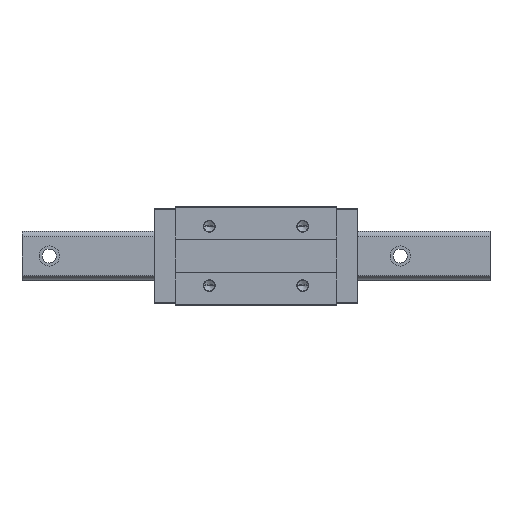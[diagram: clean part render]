
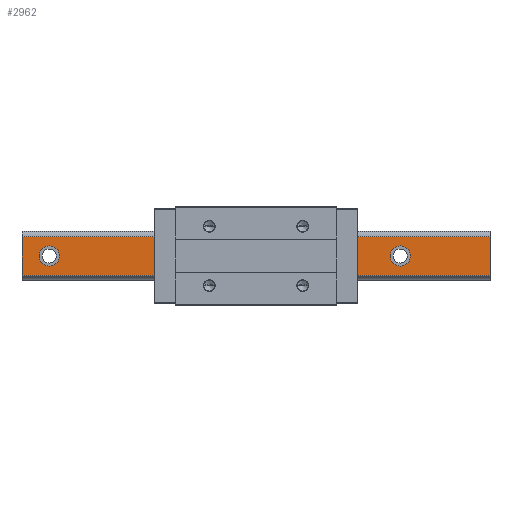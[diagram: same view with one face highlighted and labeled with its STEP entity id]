
A CAD part, top view. The second image highlights one B-rep face of the part: STEP entity #2962.
In plain terms, the highlighted planar face has unit normal (0, 0, 1).
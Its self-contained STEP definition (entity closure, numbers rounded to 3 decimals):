
#66 = EDGE_CURVE ( 'NONE', #2219, #4518, #2010, .T. ) ;
#70 = AXIS2_PLACEMENT_3D ( 'NONE', #3459, #590, #4324 ) ;
#80 = CARTESIAN_POINT ( 'NONE',  ( -128., 0., 53. ) ) ;
#125 = DIRECTION ( 'NONE',  ( 0., 0., 1. ) ) ;
#130 = CARTESIAN_POINT ( 'NONE',  ( -115., 0., 53. ) ) ;
#157 = ORIENTED_EDGE ( 'NONE', *, *, #1413, .F. ) ;
#184 = DIRECTION ( 'NONE',  ( 0., -1., 0. ) ) ;
#195 = EDGE_LOOP ( 'NONE', ( #157, #3461 ) ) ;
#211 = LINE ( 'NONE', #910, #3865 ) ;
#343 = VERTEX_POINT ( 'NONE', #3901 ) ;
#346 = FACE_BOUND ( 'NONE', #1137, .T. ) ;
#369 = EDGE_CURVE ( 'NONE', #4518, #4731, #541, .T. ) ;
#495 = EDGE_CURVE ( 'NONE', #4033, #4731, #211, .T. ) ;
#541 = LINE ( 'NONE', #1396, #1420 ) ;
#566 = DIRECTION ( 'NONE',  ( -1., 0., 0. ) ) ;
#590 = DIRECTION ( 'NONE',  ( 0., 0., 1. ) ) ;
#643 = FACE_OUTER_BOUND ( 'NONE', #4306, .T. ) ;
#668 = ORIENTED_EDGE ( 'NONE', *, *, #369, .F. ) ;
#693 = FACE_BOUND ( 'NONE', #2175, .T. ) ;
#712 = CIRCLE ( 'NONE', #3366, 13. ) ;
#894 = EDGE_CURVE ( 'NONE', #2843, #5283, #4288, .T. ) ;
#904 = VERTEX_POINT ( 'NONE', #1606 ) ;
#910 = CARTESIAN_POINT ( 'NONE',  ( -300., -24.864, 53. ) ) ;
#930 = CIRCLE ( 'NONE', #2462, 13. ) ;
#1004 = CARTESIAN_POINT ( 'NONE',  ( -278., 0., 53. ) ) ;
#1113 = EDGE_CURVE ( 'NONE', #4407, #343, #712, .T. ) ;
#1137 = EDGE_LOOP ( 'NONE', ( #4864, #3231 ) ) ;
#1151 = ORIENTED_EDGE ( 'NONE', *, *, #495, .T. ) ;
#1154 = CARTESIAN_POINT ( 'NONE',  ( 300., -24.864, 53. ) ) ;
#1193 = VECTOR ( 'NONE', #4289, 1000. ) ;
#1225 = DIRECTION ( 'NONE',  ( 0., 0., 1. ) ) ;
#1268 = ORIENTED_EDGE ( 'NONE', *, *, #2450, .F. ) ;
#1301 = DIRECTION ( 'NONE',  ( 0., 0., 1. ) ) ;
#1390 = ORIENTED_EDGE ( 'NONE', *, *, #1535, .F. ) ;
#1396 = CARTESIAN_POINT ( 'NONE',  ( 300., -24.864, 53. ) ) ;
#1413 = EDGE_CURVE ( 'NONE', #904, #3310, #3238, .T. ) ;
#1420 = VECTOR ( 'NONE', #566, 1000. ) ;
#1518 = CARTESIAN_POINT ( 'NONE',  ( 35., 0., 53. ) ) ;
#1535 = EDGE_CURVE ( 'NONE', #5283, #2843, #930, .T. ) ;
#1546 = CIRCLE ( 'NONE', #1801, 13. ) ;
#1606 = CARTESIAN_POINT ( 'NONE',  ( 48., 0., 53. ) ) ;
#1801 = AXIS2_PLACEMENT_3D ( 'NONE', #4789, #2340, #3586 ) ;
#1951 = AXIS2_PLACEMENT_3D ( 'NONE', #1518, #3157, #3993 ) ;
#1981 = CIRCLE ( 'NONE', #2581, 13. ) ;
#2010 = LINE ( 'NONE', #1154, #4562 ) ;
#2038 = CARTESIAN_POINT ( 'NONE',  ( -252., 0., 53. ) ) ;
#2096 = VERTEX_POINT ( 'NONE', #1004 ) ;
#2128 = CARTESIAN_POINT ( 'NONE',  ( 185., 0., 53. ) ) ;
#2158 = DIRECTION ( 'NONE',  ( 1., 0., 0. ) ) ;
#2175 = EDGE_LOOP ( 'NONE', ( #2522, #1268 ) ) ;
#2210 = CARTESIAN_POINT ( 'NONE',  ( 300., 24.864, 53. ) ) ;
#2219 = VERTEX_POINT ( 'NONE', #2261 ) ;
#2261 = CARTESIAN_POINT ( 'NONE',  ( 300., 24.864, 53. ) ) ;
#2307 = AXIS2_PLACEMENT_3D ( 'NONE', #4082, #2865, #3674 ) ;
#2340 = DIRECTION ( 'NONE',  ( 0., 0., 1. ) ) ;
#2378 = PLANE ( 'NONE',  #3793 ) ;
#2450 = EDGE_CURVE ( 'NONE', #2096, #3953, #1981, .T. ) ;
#2462 = AXIS2_PLACEMENT_3D ( 'NONE', #2128, #125, #2158 ) ;
#2503 = EDGE_LOOP ( 'NONE', ( #1390, #4732 ) ) ;
#2522 = ORIENTED_EDGE ( 'NONE', *, *, #3487, .F. ) ;
#2553 = DIRECTION ( 'NONE',  ( 1., 0., 0. ) ) ;
#2581 = AXIS2_PLACEMENT_3D ( 'NONE', #3341, #1225, #3695 ) ;
#2674 = FACE_BOUND ( 'NONE', #195, .T. ) ;
#2790 = DIRECTION ( 'NONE',  ( 0., -1., 0. ) ) ;
#2843 = VERTEX_POINT ( 'NONE', #5057 ) ;
#2865 = DIRECTION ( 'NONE',  ( 0., 0., 1. ) ) ;
#2959 = ORIENTED_EDGE ( 'NONE', *, *, #3257, .T. ) ;
#2962 = ADVANCED_FACE ( 'NONE', ( #693, #346, #2674, #4323, #643 ), #2378, .F. ) ;
#2984 = CIRCLE ( 'NONE', #70, 13. ) ;
#3157 = DIRECTION ( 'NONE',  ( 0., 0., 1. ) ) ;
#3231 = ORIENTED_EDGE ( 'NONE', *, *, #1113, .F. ) ;
#3238 = CIRCLE ( 'NONE', #1951, 13. ) ;
#3257 = EDGE_CURVE ( 'NONE', #2219, #4033, #4237, .T. ) ;
#3310 = VERTEX_POINT ( 'NONE', #3805 ) ;
#3326 = CARTESIAN_POINT ( 'NONE',  ( -300., -24.864, 53. ) ) ;
#3341 = CARTESIAN_POINT ( 'NONE',  ( -265., 0., 53. ) ) ;
#3366 = AXIS2_PLACEMENT_3D ( 'NONE', #130, #4188, #3396 ) ;
#3396 = DIRECTION ( 'NONE',  ( 1., 0., 0. ) ) ;
#3413 = ORIENTED_EDGE ( 'NONE', *, *, #66, .F. ) ;
#3459 = CARTESIAN_POINT ( 'NONE',  ( -115., 0., 53. ) ) ;
#3461 = ORIENTED_EDGE ( 'NONE', *, *, #3669, .F. ) ;
#3487 = EDGE_CURVE ( 'NONE', #3953, #2096, #1546, .T. ) ;
#3586 = DIRECTION ( 'NONE',  ( 1., 0., 0. ) ) ;
#3629 = CIRCLE ( 'NONE', #4321, 13. ) ;
#3631 = CARTESIAN_POINT ( 'NONE',  ( -300., 24.864, 53. ) ) ;
#3669 = EDGE_CURVE ( 'NONE', #3310, #904, #3629, .T. ) ;
#3674 = DIRECTION ( 'NONE',  ( 1., 0., 0. ) ) ;
#3695 = DIRECTION ( 'NONE',  ( 1., 0., 0. ) ) ;
#3793 = AXIS2_PLACEMENT_3D ( 'NONE', #4027, #5250, #4399 ) ;
#3805 = CARTESIAN_POINT ( 'NONE',  ( 22., 0., 53. ) ) ;
#3865 = VECTOR ( 'NONE', #184, 1000. ) ;
#3901 = CARTESIAN_POINT ( 'NONE',  ( -102., 0., 53. ) ) ;
#3953 = VERTEX_POINT ( 'NONE', #2038 ) ;
#3993 = DIRECTION ( 'NONE',  ( 1., 0., 0. ) ) ;
#4027 = CARTESIAN_POINT ( 'NONE',  ( 300., -24.864, 53. ) ) ;
#4033 = VERTEX_POINT ( 'NONE', #3631 ) ;
#4049 = EDGE_CURVE ( 'NONE', #343, #4407, #2984, .T. ) ;
#4082 = CARTESIAN_POINT ( 'NONE',  ( 185., 0., 53. ) ) ;
#4188 = DIRECTION ( 'NONE',  ( 0., 0., 1. ) ) ;
#4235 = CARTESIAN_POINT ( 'NONE',  ( 198., 0., 53. ) ) ;
#4237 = LINE ( 'NONE', #2210, #1193 ) ;
#4288 = CIRCLE ( 'NONE', #2307, 13. ) ;
#4289 = DIRECTION ( 'NONE',  ( -1., 0., 0. ) ) ;
#4306 = EDGE_LOOP ( 'NONE', ( #1151, #668, #3413, #2959 ) ) ;
#4321 = AXIS2_PLACEMENT_3D ( 'NONE', #4680, #1301, #2553 ) ;
#4323 = FACE_BOUND ( 'NONE', #2503, .T. ) ;
#4324 = DIRECTION ( 'NONE',  ( 1., 0., 0. ) ) ;
#4399 = DIRECTION ( 'NONE',  ( 0., -1., 0. ) ) ;
#4407 = VERTEX_POINT ( 'NONE', #80 ) ;
#4518 = VERTEX_POINT ( 'NONE', #4697 ) ;
#4562 = VECTOR ( 'NONE', #2790, 1000. ) ;
#4680 = CARTESIAN_POINT ( 'NONE',  ( 35., 0., 53. ) ) ;
#4697 = CARTESIAN_POINT ( 'NONE',  ( 300., -24.864, 53. ) ) ;
#4731 = VERTEX_POINT ( 'NONE', #3326 ) ;
#4732 = ORIENTED_EDGE ( 'NONE', *, *, #894, .F. ) ;
#4789 = CARTESIAN_POINT ( 'NONE',  ( -265., 0., 53. ) ) ;
#4864 = ORIENTED_EDGE ( 'NONE', *, *, #4049, .F. ) ;
#5057 = CARTESIAN_POINT ( 'NONE',  ( 172., 0., 53. ) ) ;
#5250 = DIRECTION ( 'NONE',  ( 0., 0., -1. ) ) ;
#5283 = VERTEX_POINT ( 'NONE', #4235 ) ;
